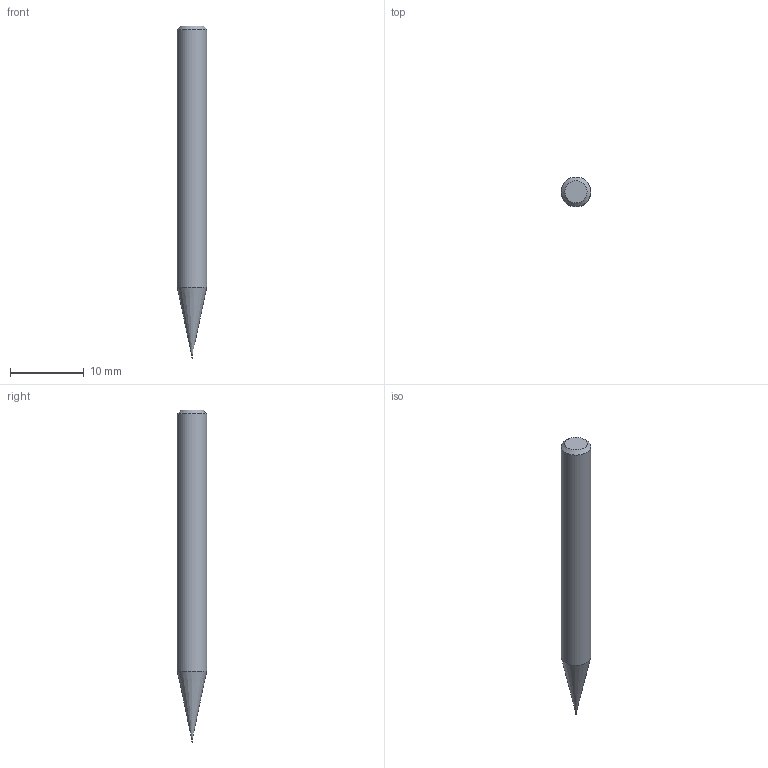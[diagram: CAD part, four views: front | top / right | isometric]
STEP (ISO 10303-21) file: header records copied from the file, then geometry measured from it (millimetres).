
FILE_DESCRIPTION((''),'2;1');
FILE_NAME('C:\Users\nsx150\AppData\Local\Temp\Mastercam 2021\AP8FW4WOPM\TEMP.step','2024-10-16T18:39:34',(''),(''),'STEP Write','Mastercam 2021 ... CNC Software, Inc.','');
FILE_SCHEMA(('AUTOMOTIVE_DESIGN'));
Length unit declared in the file: millimetre
Products named in the file (1): None
Bounding box: 4 x 4 x 45 mm (x, y, z)
Volume: 482.8 mm3; surface area: 514 mm2
Topology: 2 solids, 2 shells, 9 faces, 14 edges, 8 vertices
Faces by surface type: plane 3, cylinder 3, cone 2, sphere 1
Full cylindrical faces by diameter (mm): 0.13 x1, 0.15 x1, 4 x1
Entity records: 211 total; most frequent: DIRECTION 36, CARTESIAN_POINT 25, AXIS2_PLACEMENT_3D 18, ORIENTED_EDGE 14, EDGE_LOOP 14, STYLED_ITEM 12, ADVANCED_FACE 9, FACE_BOUND 8
